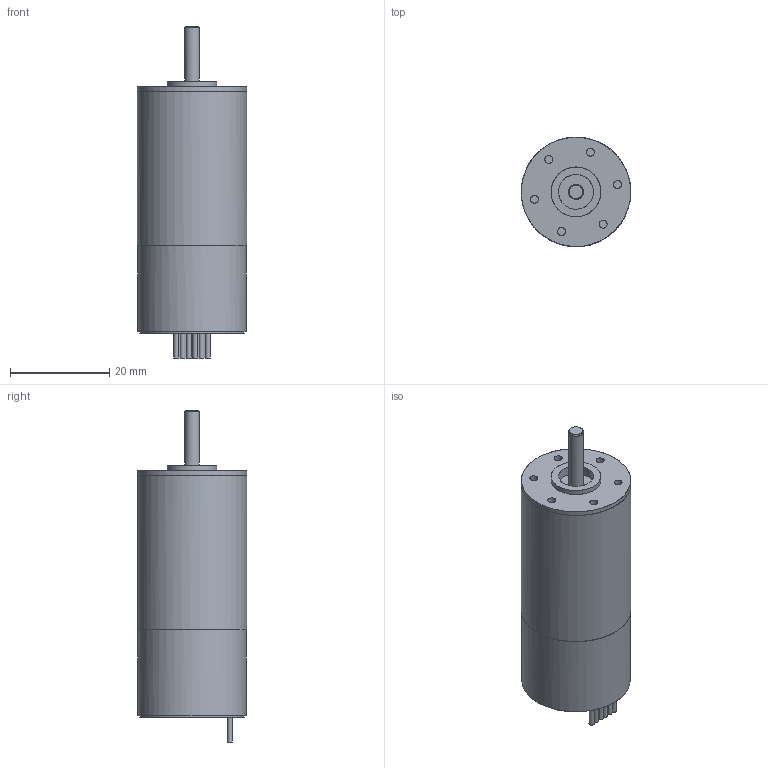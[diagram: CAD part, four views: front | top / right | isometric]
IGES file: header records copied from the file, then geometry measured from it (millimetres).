
Global section: file name: R:\a_public\Organisationsentwicklung\Aufgaben\CAD_Modelle_Vertrieb\Kombi\22xx_Bx4_SC\2232.BX4_SC.igs; native system: NX V7.5; preprocessor: SIEMENS PLM Software NX 7.5; author: DR. FRITZ FAULHABER GmbH & Co. KG; organization: DR. FRITZ FAULHABER GmbH & Co. KG; date: 20121031.072840; units: millimetre
Bounding box: 22.07 x 22.07 x 66.8 mm (x, y, z)
Surface area: 4570.5 mm2 (no closed solid volume)
Topology: 0 solids, 0 shells, 51 faces, 434 edges, 406 vertices
Faces by surface type: bspline 51
